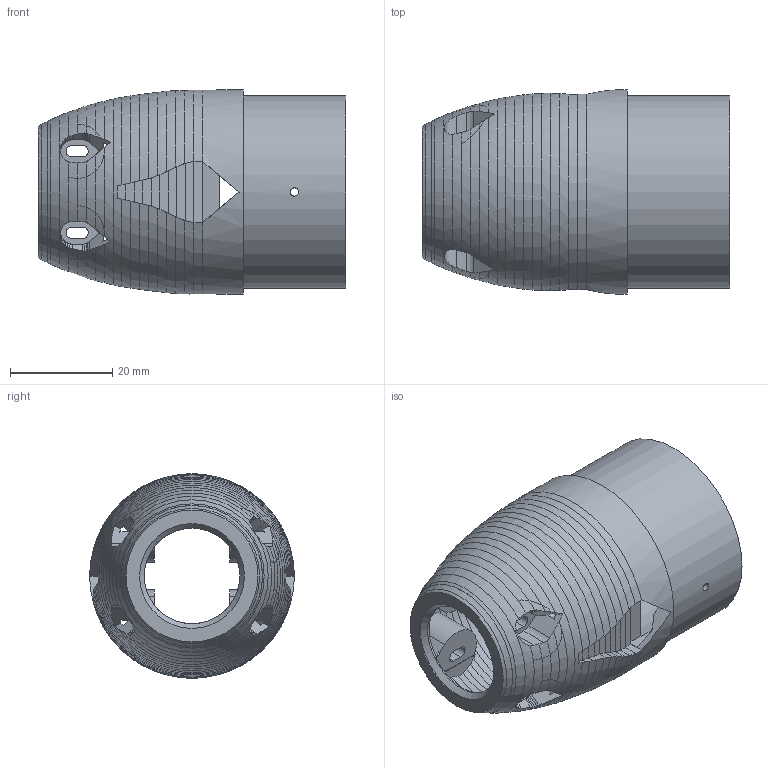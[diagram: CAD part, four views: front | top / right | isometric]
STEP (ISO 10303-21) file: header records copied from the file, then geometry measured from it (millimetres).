
FILE_DESCRIPTION(('SkyG Speed 90B - revision C6B-16 - 2026-10-13','N0O-nose-dji-o4'),'2;1');
FILE_NAME('N0O-nose-dji-o4_C6B-16','2026-10-13T19:26:15',('Author'),( 'Open CASCADE'),'Open CASCADE STEP processor 7.9','Open CASCADE 7.9' ,'Unknown');
FILE_SCHEMA(('AUTOMOTIVE_DESIGN { 1 0 10303 214 1 1 1 1 }'));
Products named in the file (1): N0O-nose-dji-o4 C6B-16
Bounding box: 60.1 x 40 x 40 mm (x, y, z)
Volume: 13304.4 mm3; surface area: 15854.5 mm2
Topology: 1 solids, 1 shells, 525 faces, 1548 edges, 1013 vertices
Faces by surface type: plane 200, cone 145, bspline 122, cylinder 58
Full cylindrical faces by diameter (mm): 1.6 x2, 2 x1, 18.657 x1, 20.5 x1, 33.8 x1, 37.7 x1, 40 x1
Entity records: 51712 total; most frequent: CARTESIAN_POINT 24933, DIRECTION 3750, ORIENTED_EDGE 3096, PCURVE 3096, DEFINITIONAL_REPRESENTATION 3096, B_SPLINE_CURVE_WITH_KNOTS 2094, LINE 1817, VECTOR 1817
